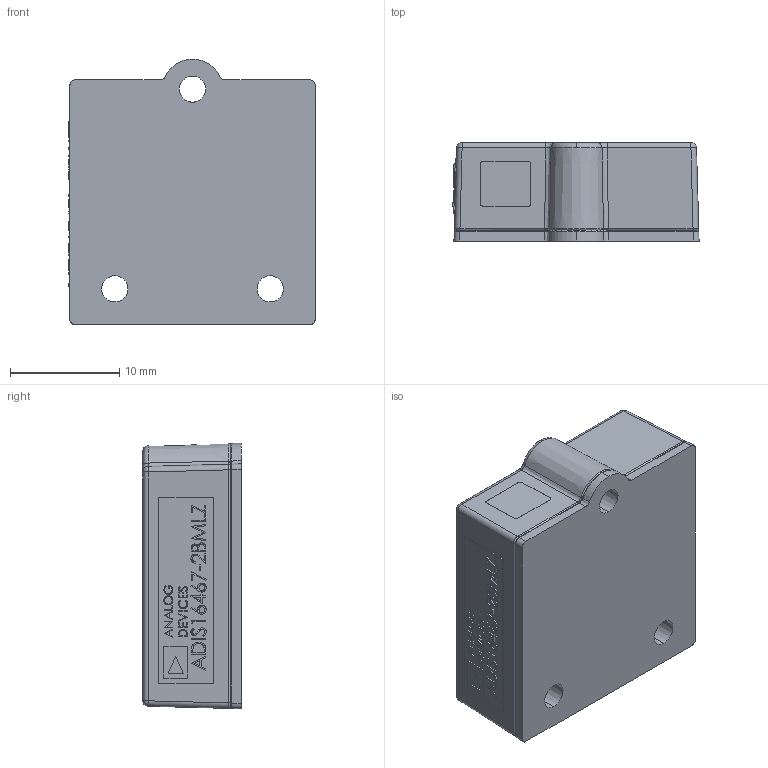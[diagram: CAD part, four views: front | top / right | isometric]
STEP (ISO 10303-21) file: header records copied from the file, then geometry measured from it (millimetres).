
FILE_DESCRIPTION (( 'STEP AP214' ), '1' );
FILE_NAME ('ADIS16467-2BMLZ.STEP', '2017-11-30T22:34:19', ( '' ), ( '' ), 'SwSTEP 2.0', 'SolidWorks 2016', '' );
FILE_SCHEMA (( 'AUTOMOTIVE_DESIGN' ));
Length unit declared in the file: millimetre
Products named in the file (5): ADIS16460_Lid Rev5_HRB2_No-Skirt_CDS_3-17-16; ADIS16467-2BMLZ; ADiS16460 Assembly_HRB2_CDS_3-17-16; FTMH-Conn-Stacker_14Pin; ADIS16460_Base rev4_HRB2_No Skirt_CDS_3-17-15
Assembly tree (4 placements, depth 3):
  ADIS16467-2BMLZ
    ADIS16460_Base rev4_HRB2_No Skirt_CDS_3-17-15
    ADiS16460 Assembly_HRB2_CDS_3-17-16
      FTMH-Conn-Stacker_14Pin
    ADIS16460_Lid Rev5_HRB2_No-Skirt_CDS_3-17-16
Bounding box: 22.49 x 9 x 24.3 mm (x, y, z)
Volume: 2281.6 mm3; surface area: 4099.7 mm2
Topology: 32 solids, 34 shells, 1483 faces, 3992 edges, 2577 vertices
Faces by surface type: plane 960, bspline 310, cylinder 119, torus 38, cone 38, sphere 18
Entity records: 73649 total; most frequent: CARTESIAN_POINT 25185, ORIENTED_EDGE 7692, DIRECTION 6035, EDGE_CURVE 3972, VECTOR 2905, LINE 2905, VERTEX_POINT 2573, EDGE_LOOP 1627
